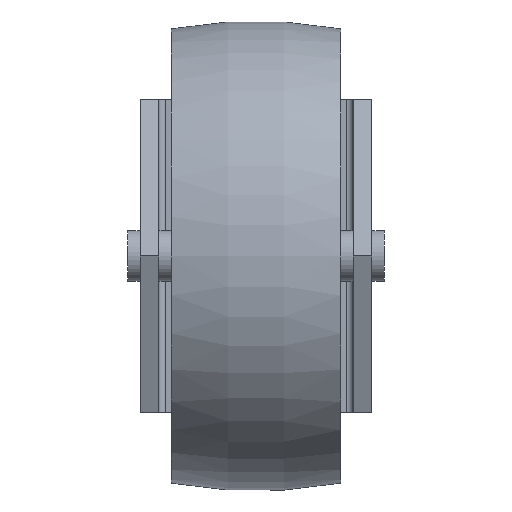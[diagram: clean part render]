
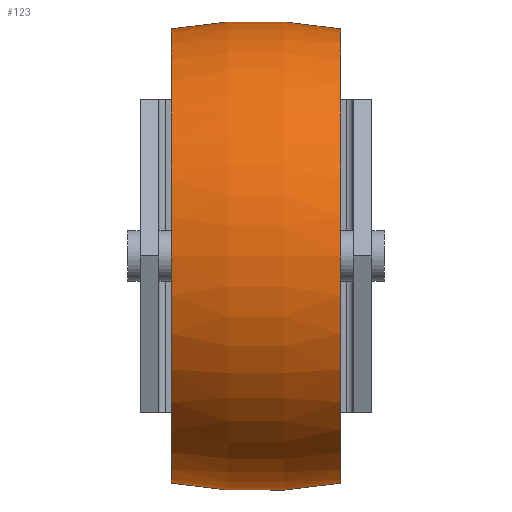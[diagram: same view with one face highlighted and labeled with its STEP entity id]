
A CAD part, front view. The second image highlights one B-rep face of the part: STEP entity #123.
In plain terms, the highlighted toroidal (fillet/blend) face has major radius 37.5 mm and minor radius 75 mm.
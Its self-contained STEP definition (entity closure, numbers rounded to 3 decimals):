
#93 = CARTESIAN_POINT ( 'NONE',  ( 13.5, -63.5, -36.275 ) ) ;
#102 = CARTESIAN_POINT ( 'NONE',  ( 13.5, -63.5, 0. ) ) ;
#123 = ADVANCED_FACE ( 'NONE', ( #310 ), #1058, .T. ) ;
#131 = DIRECTION ( 'NONE',  ( 0., 1., 0. ) ) ;
#229 = CARTESIAN_POINT ( 'NONE',  ( -13.5, -63.5, 36.275 ) ) ;
#238 = CIRCLE ( 'NONE', #563, 75. ) ;
#241 = EDGE_LOOP ( 'NONE', ( #887, #481, #1000, #719 ) ) ;
#262 = CARTESIAN_POINT ( 'NONE',  ( -13.5, -63.5, -36.275 ) ) ;
#275 = DIRECTION ( 'NONE',  ( 1., 0., 0. ) ) ;
#310 = FACE_OUTER_BOUND ( 'NONE', #241, .T. ) ;
#350 = VERTEX_POINT ( 'NONE', #359 ) ;
#359 = CARTESIAN_POINT ( 'NONE',  ( 13.5, -63.5, 36.275 ) ) ;
#404 = CIRCLE ( 'NONE', #1038, 36.275 ) ;
#445 = EDGE_CURVE ( 'NONE', #1015, #638, #238, .T. ) ;
#478 = DIRECTION ( 'NONE',  ( 0., 0., -1. ) ) ;
#481 = ORIENTED_EDGE ( 'NONE', *, *, #770, .T. ) ;
#533 = DIRECTION ( 'NONE',  ( 0., 0., -1. ) ) ;
#536 = CARTESIAN_POINT ( 'NONE',  ( -13.5, -63.5, 0. ) ) ;
#563 = AXIS2_PLACEMENT_3D ( 'NONE', #639, #662, #1109 ) ;
#627 = CIRCLE ( 'NONE', #810, 36.275 ) ;
#638 = VERTEX_POINT ( 'NONE', #93 ) ;
#639 = CARTESIAN_POINT ( 'NONE',  ( 0., -63.5, 37.5 ) ) ;
#661 = CARTESIAN_POINT ( 'NONE',  ( 0., -63.5, -37.5 ) ) ;
#662 = DIRECTION ( 'NONE',  ( 0., -1., 0. ) ) ;
#689 = AXIS2_PLACEMENT_3D ( 'NONE', #1090, #917, #742 ) ;
#719 = ORIENTED_EDGE ( 'NONE', *, *, #1088, .F. ) ;
#742 = DIRECTION ( 'NONE',  ( 0., 0., -1. ) ) ;
#748 = DIRECTION ( 'NONE',  ( 1., 0., 0. ) ) ;
#770 = EDGE_CURVE ( 'NONE', #994, #1015, #404, .T. ) ;
#804 = EDGE_CURVE ( 'NONE', #994, #350, #982, .T. ) ;
#810 = AXIS2_PLACEMENT_3D ( 'NONE', #102, #275, #533 ) ;
#817 = AXIS2_PLACEMENT_3D ( 'NONE', #661, #131, #1089 ) ;
#887 = ORIENTED_EDGE ( 'NONE', *, *, #804, .F. ) ;
#917 = DIRECTION ( 'NONE',  ( 1., 0., 0. ) ) ;
#982 = CIRCLE ( 'NONE', #817, 75. ) ;
#994 = VERTEX_POINT ( 'NONE', #229 ) ;
#1000 = ORIENTED_EDGE ( 'NONE', *, *, #445, .T. ) ;
#1015 = VERTEX_POINT ( 'NONE', #262 ) ;
#1038 = AXIS2_PLACEMENT_3D ( 'NONE', #536, #748, #478 ) ;
#1058 = TOROIDAL_SURFACE ( 'NONE', #689, -37.5, 75. ) ;
#1088 = EDGE_CURVE ( 'NONE', #350, #638, #627, .T. ) ;
#1089 = DIRECTION ( 'NONE',  ( 0., 0., 1. ) ) ;
#1090 = CARTESIAN_POINT ( 'NONE',  ( 0., -63.5, 0. ) ) ;
#1109 = DIRECTION ( 'NONE',  ( 0., 0., -1. ) ) ;
